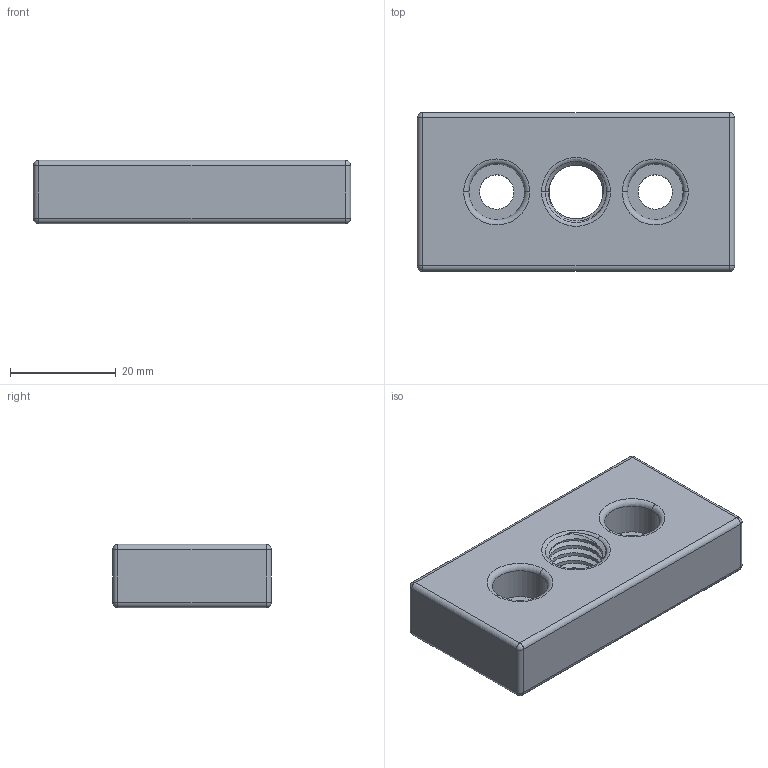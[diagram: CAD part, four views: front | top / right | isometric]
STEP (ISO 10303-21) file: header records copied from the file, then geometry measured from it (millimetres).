
FILE_DESCRIPTION (( 'STEP AP203' ), '1' );
FILE_NAME ('100-CE-SEC3060G-6.STEP', '2015-07-09T08:37:31', ( '' ), ( '' ), 'SwSTEP 2.0', 'SolidWorks 2013', '' );
FILE_SCHEMA (( 'CONFIG_CONTROL_DESIGN' ));
Length unit declared in the file: millimetre
Products named in the file (1): 100-CE-SEC3060G-6
Bounding box: 60 x 30 x 12 mm (x, y, z)
Volume: 18853.5 mm3; surface area: 6535.7 mm2
Topology: 1 solids, 1 shells, 62 faces, 151 edges, 85 vertices
Faces by surface type: cylinder 34, plane 8, sphere 8, torus 6, cone 4, bspline 2
Entity records: 3014 total; most frequent: CARTESIAN_POINT 1585, DIRECTION 288, ORIENTED_EDGE 286, EDGE_CURVE 143, AXIS2_PLACEMENT_3D 120, VERTEX_POINT 85, EDGE_LOOP 70, FACE_OUTER_BOUND 62
